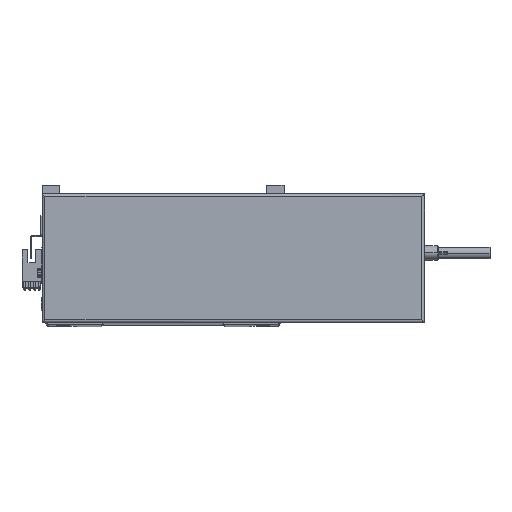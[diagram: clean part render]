
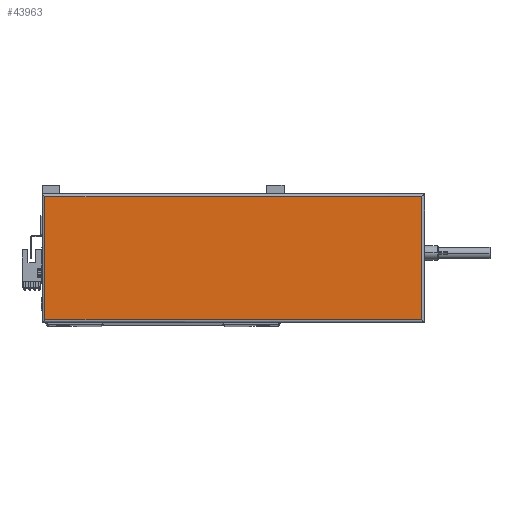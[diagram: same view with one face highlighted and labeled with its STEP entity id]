
A CAD part, top view. The second image highlights one B-rep face of the part: STEP entity #43963.
In plain terms, the highlighted planar face has unit normal (0, 0, 1).
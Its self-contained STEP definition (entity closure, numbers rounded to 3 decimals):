
#736 = CARTESIAN_POINT ( 'NONE',  ( 0., 88., 44.8 ) ) ;
#1172 = DIRECTION ( 'NONE',  ( 0., 0., 1. ) ) ;
#4536 = VERTEX_POINT ( 'NONE', #21398 ) ;
#4562 = DIRECTION ( 'NONE',  ( -1., 0., 0. ) ) ;
#4648 = CARTESIAN_POINT ( 'NONE',  ( 133.5, 45., 44.8 ) ) ;
#7288 = EDGE_CURVE ( 'NONE', #10919, #22525, #44067, .T. ) ;
#7293 = CARTESIAN_POINT ( 'NONE',  ( 265., 88., 44.8 ) ) ;
#8374 = FACE_OUTER_BOUND ( 'NONE', #22596, .T. ) ;
#9003 = LINE ( 'NONE', #32137, #39175 ) ;
#9056 = VECTOR ( 'NONE', #4562, 1000. ) ;
#10331 = ORIENTED_EDGE ( 'NONE', *, *, #39582, .T. ) ;
#10919 = VERTEX_POINT ( 'NONE', #42521 ) ;
#13145 = DIRECTION ( 'NONE',  ( 1., 0., 0. ) ) ;
#14638 = ORIENTED_EDGE ( 'NONE', *, *, #7288, .T. ) ;
#15416 = EDGE_CURVE ( 'NONE', #48562, #10919, #20693, .T. ) ;
#18464 = AXIS2_PLACEMENT_3D ( 'NONE', #4648, #1172, #20370 ) ;
#20370 = DIRECTION ( 'NONE',  ( 1., 0., 0. ) ) ;
#20421 = EDGE_CURVE ( 'NONE', #22525, #4536, #26540, .T. ) ;
#20693 = LINE ( 'NONE', #736, #9056 ) ;
#21398 = CARTESIAN_POINT ( 'NONE',  ( 265., 2., 44.8 ) ) ;
#22525 = VERTEX_POINT ( 'NONE', #48288 ) ;
#22596 = EDGE_LOOP ( 'NONE', ( #10331, #46576, #14638, #31473 ) ) ;
#23173 = CARTESIAN_POINT ( 'NONE',  ( 2., 0., 44.8 ) ) ;
#25937 = VECTOR ( 'NONE', #13145, 1000. ) ;
#26540 = LINE ( 'NONE', #28933, #25937 ) ;
#27417 = VECTOR ( 'NONE', #35228, 1000. ) ;
#28933 = CARTESIAN_POINT ( 'NONE',  ( 267., 2., 44.8 ) ) ;
#31473 = ORIENTED_EDGE ( 'NONE', *, *, #20421, .T. ) ;
#32137 = CARTESIAN_POINT ( 'NONE',  ( 265., 90., 44.8 ) ) ;
#35228 = DIRECTION ( 'NONE',  ( 0., -1., 0. ) ) ;
#39175 = VECTOR ( 'NONE', #40407, 1000. ) ;
#39582 = EDGE_CURVE ( 'NONE', #4536, #48562, #9003, .T. ) ;
#40407 = DIRECTION ( 'NONE',  ( 0., 1., 0. ) ) ;
#40564 = PLANE ( 'NONE',  #18464 ) ;
#42521 = CARTESIAN_POINT ( 'NONE',  ( 2., 88., 44.8 ) ) ;
#43963 = ADVANCED_FACE ( 'NONE', ( #8374 ), #40564, .T. ) ;
#44067 = LINE ( 'NONE', #23173, #27417 ) ;
#46576 = ORIENTED_EDGE ( 'NONE', *, *, #15416, .T. ) ;
#48288 = CARTESIAN_POINT ( 'NONE',  ( 2., 2., 44.8 ) ) ;
#48562 = VERTEX_POINT ( 'NONE', #7293 ) ;
